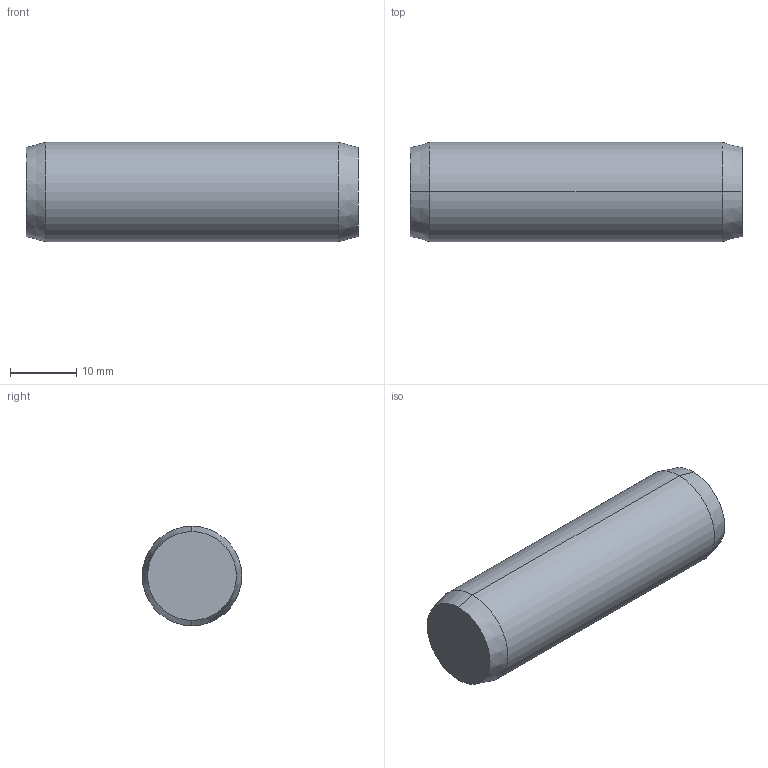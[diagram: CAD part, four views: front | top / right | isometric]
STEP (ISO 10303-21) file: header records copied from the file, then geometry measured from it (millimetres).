
FILE_DESCRIPTION (( 'STEP AP203' ), '1' );
FILE_NAME ('parallel pin unhardened_iso.STEP', '2022-04-13T08:00:38', ( '' ), ( '' ), 'SwSTEP 2.0', 'SolidWorks 2021', '' );
FILE_SCHEMA (( 'CONFIG_CONTROL_DESIGN' ));
Length unit declared in the file: millimetre
Products named in the file (1): parallel pin unhardened_iso
Bounding box: 50 x 15 x 15 mm (x, y, z)
Volume: 8726.1 mm3; surface area: 2632.2 mm2
Topology: 1 solids, 1 shells, 8 faces, 14 edges, 8 vertices
Faces by surface type: cone 4, cylinder 2, plane 2
Entity records: 271 total; most frequent: DIRECTION 40, CARTESIAN_POINT 31, ORIENTED_EDGE 28, AXIS2_PLACEMENT_3D 17, EDGE_CURVE 14, ADVANCED_FACE 8, PERSON_AND_ORGANIZATION 8, EDGE_LOOP 8
